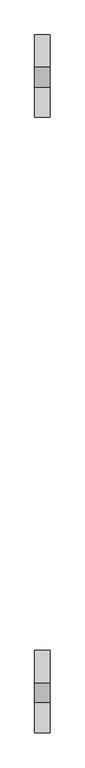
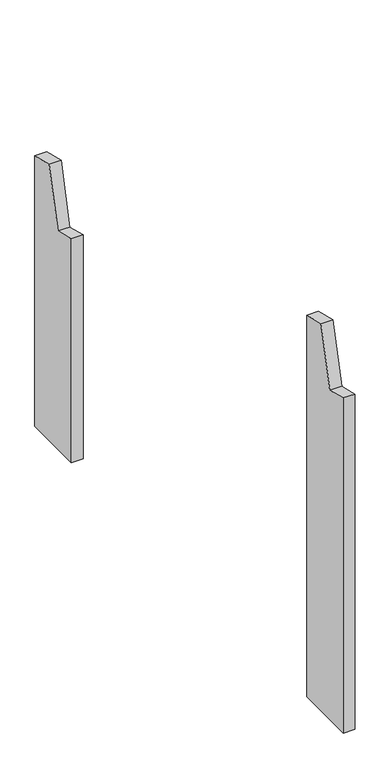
"""IFC4 building model written with IfcOpenShell, lengths in millimetres: proxy geometry, Modelos genéricos 50 : Modelos genéricos 5."""

from ifc_helpers import new_model, si_unit, frame, origin, place, context, project, spatial, polyline, outline, extrude, source, transform, mapped, element, save


def generic_models_e209cc3a(model_context):
    return source(origin(), model_context, "Body", "SweptSolid", [
        extrude(outline(polyline([(3268.6238165, 3000.0), (3268.6238165, 3898.0915281), (3326.8415601, 3883.5762143), (3365.5490634, 4038.8235305), (3428.6238165, 4023.0972283), (3428.6238165, 3000.0), (3268.6238165, 3000.0)])), frame((-5316.5527533, 0.0, 0.0), z_axis=(1.0, 0.0, 0.0), x_axis=(0.0, 1.0, 0.0)), (0.0, 0.0, 1.0), 30.0),
        extrude(outline(polyline([(4463.6238165, 3000.0), (4463.6238165, 3600.1445647), (4521.8415601, 3585.6292509), (4560.5490634, 3740.8765671), (4623.6238165, 3725.1502649), (4623.6238165, 3000.0), (4463.6238165, 3000.0)])), frame((-5316.5527533, 0.0, 0.0), z_axis=(1.0, 0.0, 0.0), x_axis=(0.0, 1.0, 0.0)), (0.0, 0.0, 1.0), 30.0),
    ])


if __name__ == "__main__":
    model = new_model("IFC4")
    model_context = context("Model", 3, world=origin())
    ifc_project = project(units=[si_unit("LENGTHUNIT", "METRE", prefix="MILLI")], contexts=[model_context])
    site = spatial("IfcSite", under=ifc_project)
    building = spatial("IfcBuilding", under=site)
    placement = place(None, origin())
    generic_models_shape = generic_models_e209cc3a(model_context)
    element("IfcBuildingElementProxy", 1, Name="Modelos genéricos 50 : Modelos genéricos 5", ObjectType="Modelos genéricos 50 : Modelos genéricos 5", at=placement, inside=building, context=model_context, shape_type="MappedRepresentation", body=[
        mapped(generic_models_shape, transform((0.0, 0.0, 0.0), x_axis=(1.0, 0.0, 0.0), y_axis=(0.0, 1.0, 0.0), z_axis=(0.0, 0.0, 1.0))),
    ])
    save(model, "model.ifc")
